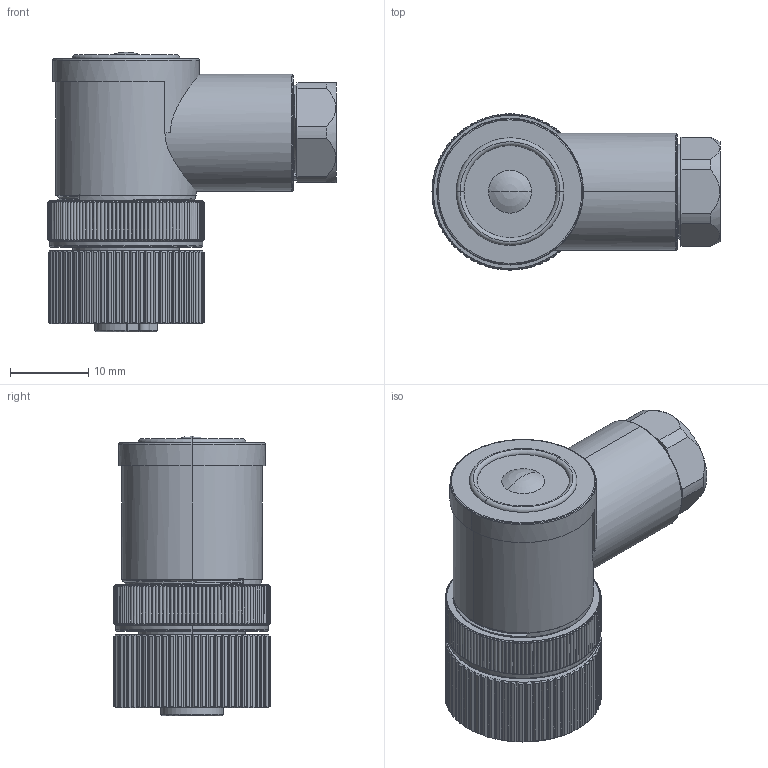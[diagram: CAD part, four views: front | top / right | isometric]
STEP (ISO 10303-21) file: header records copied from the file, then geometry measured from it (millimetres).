
FILE_DESCRIPTION((''),'2;1');
FILE_NAME('XC-M12-RWK-PG7','2025-06-21T15:48:35',('lyj'),(''),'CREO PARAMETRIC BY PTC INC, 2019010','CREO PARAMETRIC BY PTC INC, 2019010','');
FILE_SCHEMA(('CONFIG_CONTROL_DESIGN'));
Length unit declared in the file: millimetre
Products named in the file (1): XC-M12-RWK-PG7
Bounding box: 36.9 x 20 x 35.8 mm (x, y, z)
Volume: 8963.2 mm3; surface area: 11360.4 mm2
Topology: 1 solids, 12 shells, 1588 faces, 4248 edges, 2732 vertices
Faces by surface type: cylinder 651, plane 411, cone 410, bspline 60, extrusion 29, torus 23, sphere 4
Entity records: 86908 total; most frequent: CARTESIAN_POINT 48889, ORIENTED_EDGE 8488, DIRECTION 7300, EDGE_CURVE 4244, AXIS2_PLACEMENT_3D 2924, VERTEX_POINT 2732, EDGE_LOOP 1682, FACE_OUTER_BOUND 1588
